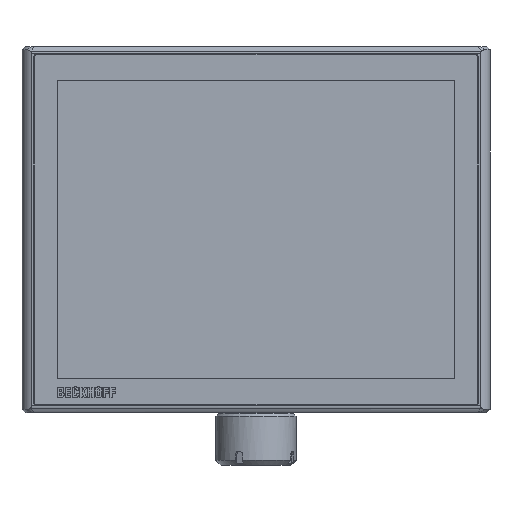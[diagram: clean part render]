
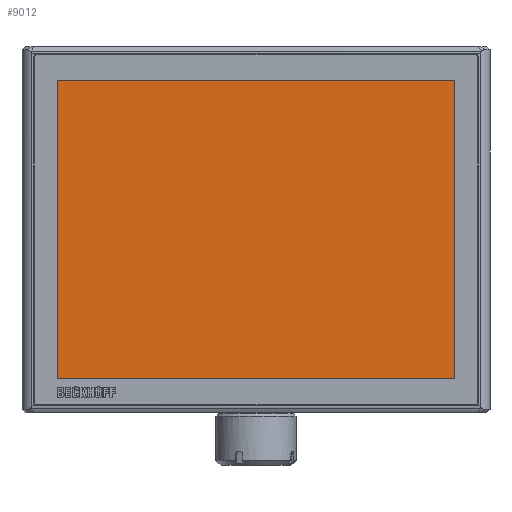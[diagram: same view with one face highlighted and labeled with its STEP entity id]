
A CAD part, top view. The second image highlights one B-rep face of the part: STEP entity #9012.
In plain terms, the highlighted planar face has unit normal (0, 0, 1).
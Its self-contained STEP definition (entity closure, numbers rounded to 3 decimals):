
#1218=LINE('',#18735,#1930);
#1219=LINE('',#18737,#1931);
#1220=LINE('',#18739,#1932);
#1221=LINE('',#18740,#1933);
#1930=VECTOR('',#11703,10.);
#1931=VECTOR('',#11704,10.);
#1932=VECTOR('',#11705,10.);
#1933=VECTOR('',#11706,10.);
#2183=PLANE('',#9714);
#2646=FACE_OUTER_BOUND('',#3163,.T.);
#3163=EDGE_LOOP('',(#7769,#7770,#7771,#7772));
#4188=VERTEX_POINT('',#18733);
#4189=VERTEX_POINT('',#18734);
#4190=VERTEX_POINT('',#18736);
#4191=VERTEX_POINT('',#18738);
#5398=EDGE_CURVE('',#4188,#4189,#1218,.T.);
#5399=EDGE_CURVE('',#4190,#4188,#1219,.T.);
#5400=EDGE_CURVE('',#4191,#4190,#1220,.T.);
#5401=EDGE_CURVE('',#4189,#4191,#1221,.T.);
#7769=ORIENTED_EDGE('',*,*,#5398,.F.);
#7770=ORIENTED_EDGE('',*,*,#5399,.F.);
#7771=ORIENTED_EDGE('',*,*,#5400,.F.);
#7772=ORIENTED_EDGE('',*,*,#5401,.F.);
#9012=ADVANCED_FACE('',(#2646),#2183,.T.);
#9714=AXIS2_PLACEMENT_3D('',#18732,#11701,#11702);
#11701=DIRECTION('center_axis',(0.,0.,
1.));
#11702=DIRECTION('ref_axis',(-1.,0.,0.));
#11703=DIRECTION('',(0.,1.,0.));
#11704=DIRECTION('',(-1.,0.,0.));
#11705=DIRECTION('',(0.,-1.,0.));
#11706=DIRECTION('',(1.,0.,0.));
#18732=CARTESIAN_POINT('Origin',(0.,0.,
11.3));
#18733=CARTESIAN_POINT('',(-153.05,-115.05,11.3));
#18734=CARTESIAN_POINT('',(-153.05,115.05,11.3));
#18735=CARTESIAN_POINT('',(-153.05,57.525,11.3));
#18736=CARTESIAN_POINT('',(153.05,-115.05,11.3));
#18737=CARTESIAN_POINT('',(-76.525,-115.05,11.3));
#18738=CARTESIAN_POINT('',(153.05,115.05,11.3));
#18739=CARTESIAN_POINT('',(153.05,-57.525,11.3));
#18740=CARTESIAN_POINT('',(76.525,115.05,11.3));
